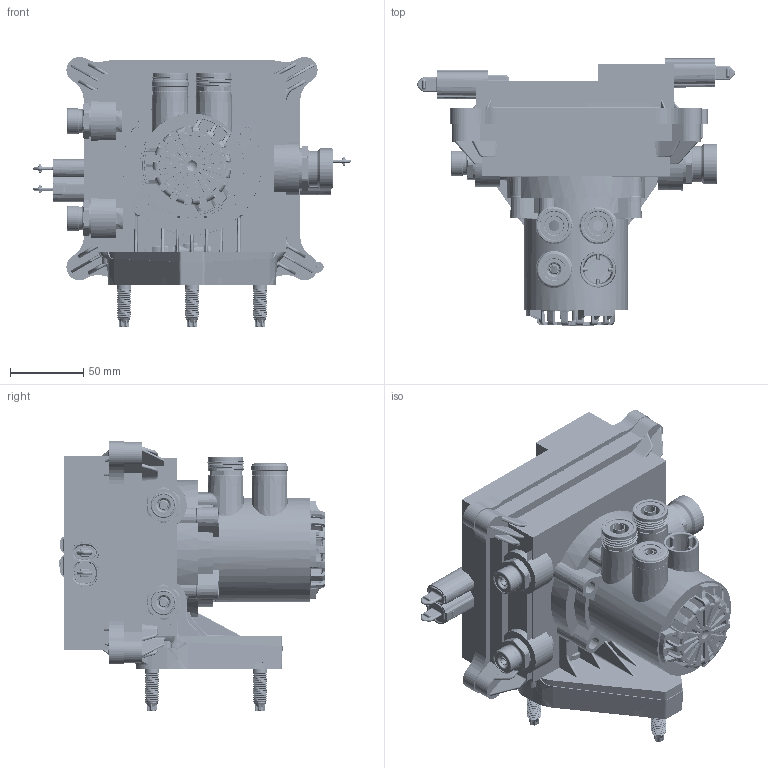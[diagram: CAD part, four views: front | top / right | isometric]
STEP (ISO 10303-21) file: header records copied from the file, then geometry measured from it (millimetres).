
FILE_DESCRIPTION((''),'2;1');
FILE_NAME('841_001_001_ASM','2022-05-23T10:06:54',('sripaskaraa'),('Haldex Brake Products'),'CREO PARAMETRIC BY PTC INC, 2018500','CREO PARAMETRIC BY PTC INC, 2018500','');
FILE_SCHEMA(('AUTOMOTIVE_DESIGN { 1 0 10303 214 1 1 1 1 }'));
Products named in the file (22): 027_5590_09_SIMP_1_1; 003_9901_09_SIMP_ASM_1_1_ASM; 032_5119_09_1_1_2_3; 032_5113_09_1_1_2_3; 051_5150_09_1_1_2_3; 003_9964_09_SIMP_1_1; 003_9964_09_SIMP_ASM_1_1_ASM; 004_0021_09_SIMP_ASM_1_1_ASM; 027_5537_09_SIMP_AF1_1; 003_9864_09_SIMP_AF1_ASM_1_ASM; 032_5151_09_1_1_2_3; 032_5156_09_1_1; 003_9981_09_SIMP_AF1_ASM_1_ASM; 027_5556_09_AF1_1; 003_9836_09_AF1_ASM_1_ASM; 003_9978_09_SIMP_AF1_ASM_1_ASM; 2330530_1_1_2_3; 003_9900_09_ASM_1_1_2_3_ASM; 2330529_1_1_2_3; 003_9899_09_ASM_1_1_2_3_ASM; 841_001_001_SIMP_ASM_1_ASM; 841_001_001_ASM
Assembly tree (26 placements, depth 6):
  841_001_001_ASM
    841_001_001_SIMP_ASM_1_ASM
      004_0021_09_SIMP_ASM_1_1_ASM
        003_9901_09_SIMP_ASM_1_1_ASM
          027_5590_09_SIMP_1_1
        032_5119_09_1_1_2_3
        032_5113_09_1_1_2_3  x2
        051_5150_09_1_1_2_3  x3
        003_9964_09_SIMP_ASM_1_1_ASM
          003_9964_09_SIMP_1_1
      003_9978_09_SIMP_AF1_ASM_1_ASM
        003_9981_09_SIMP_AF1_ASM_1_ASM
          003_9864_09_SIMP_AF1_ASM_1_ASM
            027_5537_09_SIMP_AF1_1
          032_5151_09_1_1_2_3  x2
          032_5156_09_1_1
        003_9836_09_AF1_ASM_1_ASM
          027_5556_09_AF1_1
      003_9900_09_ASM_1_1_2_3_ASM  x2
        2330530_1_1_2_3
      003_9899_09_ASM_1_1_2_3_ASM
        2330529_1_1_2_3
Bounding box: 217.49 x 182.73 x 184.96 mm (x, y, z)
Volume: 2231017.5 mm3; surface area: 474794.4 mm2
Topology: 16 solids, 79 shells, 19854 faces, 55309 edges, 35542 vertices
Faces by surface type: plane 10555, cylinder 5272, bspline 1536, torus 1184, cone 870, sphere 402, extrusion 35
Entity records: 820295 total; most frequent: CARTESIAN_POINT 242355, ORIENTED_EDGE 91756, DIRECTION 84404, EDGE_CURVE 45995, PRESENTATION_STYLE_ASSIGNMENT 39409, STYLED_ITEM 39286, CURVE_STYLE 34958, VERTEX_POINT 29499
